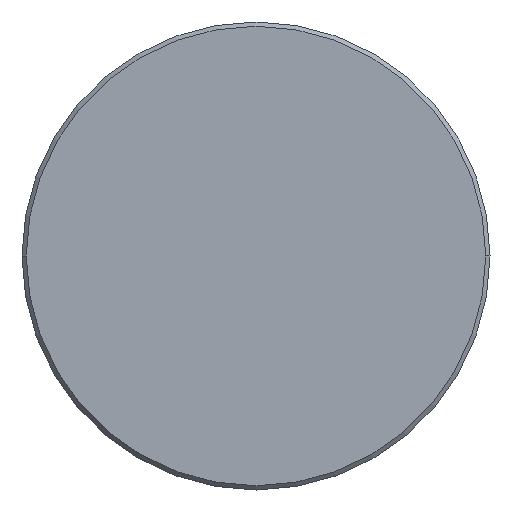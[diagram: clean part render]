
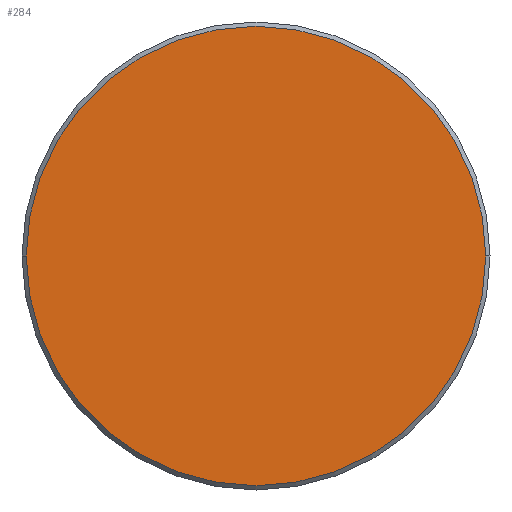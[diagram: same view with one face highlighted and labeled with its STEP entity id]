
A CAD part, left-side view. The second image highlights one B-rep face of the part: STEP entity #284.
In plain terms, the highlighted planar face has unit normal (-1, 0, 0).
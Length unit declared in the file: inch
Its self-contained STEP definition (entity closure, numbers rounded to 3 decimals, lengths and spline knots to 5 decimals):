
#1 = VERTEX_POINT ( 'NONE', #334 ) ;
#3 = DIRECTION ( 'NONE',  ( 0., -1., 0. ) ) ;
#31 = AXIS2_PLACEMENT_3D ( 'NONE', #208, #236, #59 ) ;
#40 = DIRECTION ( 'NONE',  ( -1., 0., 0. ) ) ;
#47 = EDGE_CURVE ( 'NONE', #1, #134, #94, .T. ) ;
#56 = AXIS2_PLACEMENT_3D ( 'NONE', #129, #40, #3 ) ;
#59 = DIRECTION ( 'NONE',  ( 0., -1., 0. ) ) ;
#76 = ORIENTED_EDGE ( 'NONE', *, *, #314, .T. ) ;
#80 = DIRECTION ( 'NONE',  ( 0., -1., 0. ) ) ;
#94 = CIRCLE ( 'NONE', #56, 0.21475 ) ;
#102 = AXIS2_PLACEMENT_3D ( 'NONE', #258, #141, #80 ) ;
#129 = CARTESIAN_POINT ( 'NONE',  ( 0., 0., 0. ) ) ;
#134 = VERTEX_POINT ( 'NONE', #309 ) ;
#141 = DIRECTION ( 'NONE',  ( -1., 0., 0. ) ) ;
#208 = CARTESIAN_POINT ( 'NONE',  ( 0., 0., 0. ) ) ;
#229 = ORIENTED_EDGE ( 'NONE', *, *, #47, .T. ) ;
#236 = DIRECTION ( 'NONE',  ( -1., 0., 0. ) ) ;
#258 = CARTESIAN_POINT ( 'NONE',  ( 0., 0., 0. ) ) ;
#284 = ADVANCED_FACE ( 'NONE', ( #286 ), #290, .T. ) ;
#286 = FACE_OUTER_BOUND ( 'NONE', #298, .T. ) ;
#290 = PLANE ( 'NONE',  #102 ) ;
#298 = EDGE_LOOP ( 'NONE', ( #76, #229 ) ) ;
#309 = CARTESIAN_POINT ( 'NONE',  ( 0., 0.21475, 0. ) ) ;
#314 = EDGE_CURVE ( 'NONE', #134, #1, #369, .T. ) ;
#334 = CARTESIAN_POINT ( 'NONE',  ( 0., -0.21475, 0. ) ) ;
#369 = CIRCLE ( 'NONE', #31, 0.21475 ) ;
